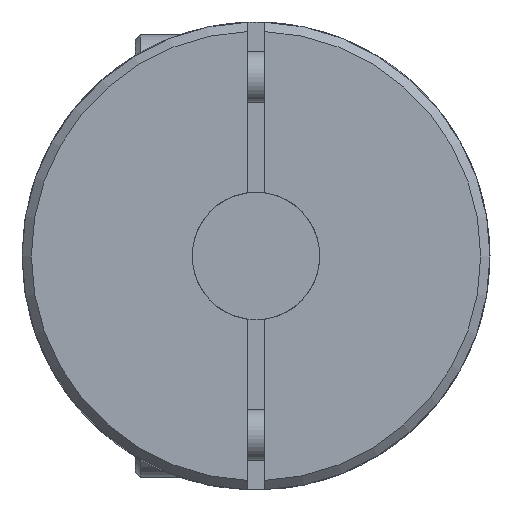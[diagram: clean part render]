
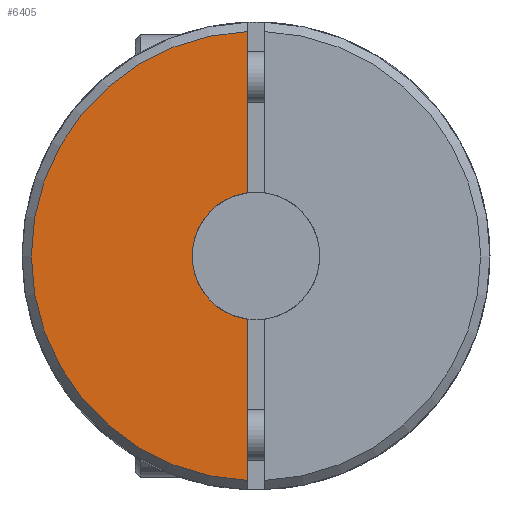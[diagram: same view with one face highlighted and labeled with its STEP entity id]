
A CAD part, left-side view. The second image highlights one B-rep face of the part: STEP entity #6405.
In plain terms, the highlighted planar face has unit normal (-1, 0, 0).
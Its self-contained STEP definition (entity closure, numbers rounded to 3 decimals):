
#531=PLANE('',#6937);
#693=FACE_OUTER_BOUND('',#1107,.T.);
#1107=EDGE_LOOP('',(#4535,#4536,#4537,#4538));
#1548=CIRCLE('',#6866,7.5);
#1592=CIRCLE('',#6935,26.4);
#2068=LINE('',#10221,#2358);
#2070=LINE('',#10232,#2360);
#2358=VECTOR('',#7938,1000.);
#2360=VECTOR('',#7950,1000.);
#2675=VERTEX_POINT('',#10199);
#2677=VERTEX_POINT('',#10202);
#2683=VERTEX_POINT('',#10217);
#2687=VERTEX_POINT('',#10231);
#3339=EDGE_CURVE('',#2677,#2675,#1548,.T.);
#3348=EDGE_CURVE('',#2675,#2683,#2068,.T.);
#3353=EDGE_CURVE('',#2687,#2677,#2070,.T.);
#3423=EDGE_CURVE('',#2687,#2683,#1592,.T.);
#4535=ORIENTED_EDGE('',*,*,#3339,.T.);
#4536=ORIENTED_EDGE('',*,*,#3348,.T.);
#4537=ORIENTED_EDGE('',*,*,#3423,.F.);
#4538=ORIENTED_EDGE('',*,*,#3353,.T.);
#6405=ADVANCED_FACE('',(#693),#531,.F.);
#6866=AXIS2_PLACEMENT_3D('',#10203,#7924,#7925);
#6935=AXIS2_PLACEMENT_3D('',#10490,#8090,#8091);
#6937=AXIS2_PLACEMENT_3D('',#10492,#8094,#8095);
#7924=DIRECTION('center_axis',(1.,0.,0.));
#7925=DIRECTION('ref_axis',(0.,0.,1.));
#7938=DIRECTION('',(0.,0.,1.));
#7950=DIRECTION('',(0.,0.,1.));
#8090=DIRECTION('center_axis',(1.,0.,0.));
#8091=DIRECTION('ref_axis',(0.,0.,-1.));
#8094=DIRECTION('center_axis',(1.,0.,0.));
#8095=DIRECTION('ref_axis',(0.,0.,-1.));
#10199=CARTESIAN_POINT('',(-134.5,1.,7.433));
#10202=CARTESIAN_POINT('',(-134.5,1.,-7.433));
#10203=CARTESIAN_POINT('Origin',(-134.5,0.,0.));
#10217=CARTESIAN_POINT('',(-134.5,1.,26.381));
#10221=CARTESIAN_POINT('',(-134.5,1.,-27.482));
#10231=CARTESIAN_POINT('',(-134.5,1.,-26.381));
#10232=CARTESIAN_POINT('',(-134.5,1.,-27.482));
#10490=CARTESIAN_POINT('Origin',(-134.5,0.,0.));
#10492=CARTESIAN_POINT('Origin',(-134.5,0.,0.));
